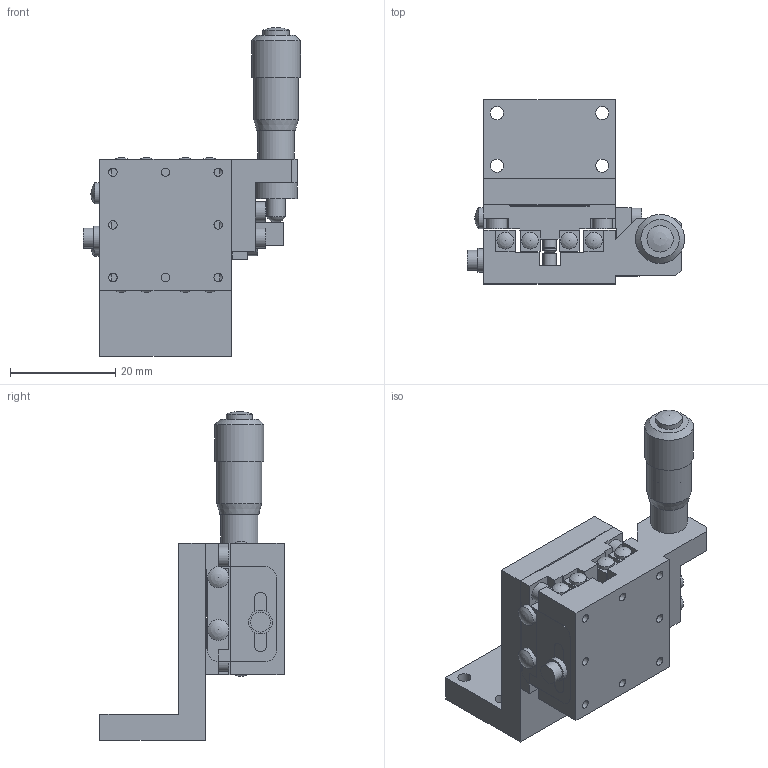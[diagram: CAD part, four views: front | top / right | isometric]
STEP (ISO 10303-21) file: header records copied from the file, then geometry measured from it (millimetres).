
FILE_DESCRIPTION( ( 'STEP AP203' ), '1' );
FILE_NAME( 'C:/3D-Trans/3D_B31-25CNU+090210.step', '2009-02-10T07:25:09', ( ' ' ), ( ' ' ), 'XStep 1.0', ' ', ' ' );
FILE_SCHEMA( ( 'CONFIG_CONTROL_DESIGN' ) );
Length unit declared in the file: millimetre
Products named in the file (4): 1; 2; 3; 4
Bounding box: 41.25 x 35 x 62.5 mm (x, y, z)
Volume: 17055.2 mm3; surface area: 11500.4 mm2
Topology: 4 solids, 5 shells, 244 faces, 630 edges, 418 vertices
Faces by surface type: plane 148, cylinder 69, cone 15, sphere 12
Full cylindrical faces by diameter (mm): 1.6 x14, 2 x1, 2.5 x12, 3.2 x8, 3.5 x2, 3.8 x9, 4 x2, 4.5 x2, 5 x3, 5.5 x1, 6 x1, 7 x1, 8 x1, 8.1 x1, 8.5 x1, 9.3 x1
Entity records: 6805 total; most frequent: CARTESIAN_POINT 1173, DIRECTION 1131, ORIENTED_EDGE 988, EDGE_CURVE 494, AXIS2_PLACEMENT_3D 395, EDGE_LOOP 375, VERTEX_POINT 365, LINE 341
